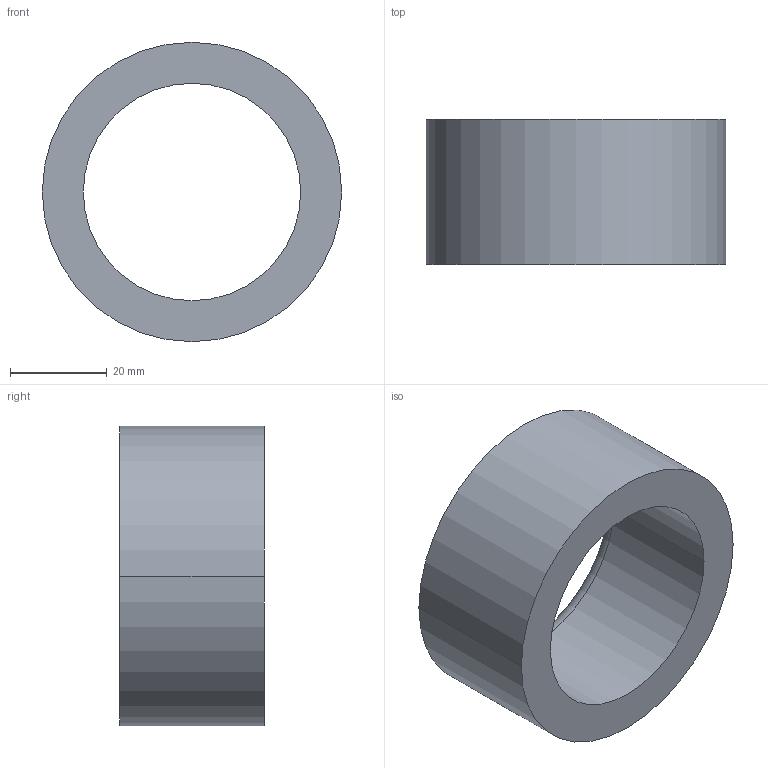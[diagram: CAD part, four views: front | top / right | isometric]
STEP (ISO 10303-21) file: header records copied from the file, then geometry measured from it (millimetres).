
FILE_DESCRIPTION (( 'STEP AP203' ), '1' );
FILE_NAME ('30800.WPP62L45.0.step', '2019-01-23T22:57:25', ( '' ), ( '' ), 'SwSTEP 2.0', 'SolidWorks 2017', '' );
FILE_SCHEMA (( 'CONFIG_CONTROL_DESIGN' ));
Length unit declared in the file: millimetre
Products named in the file (1): 30800.WPP62L45.0
Bounding box: 62 x 30 x 62 mm (x, y, z)
Volume: 42474.6 mm3; surface area: 12734.9 mm2
Topology: 1 solids, 1 shells, 8 faces, 16 edges, 10 vertices
Faces by surface type: cylinder 4, torus 2, plane 2
Entity records: 297 total; most frequent: DIRECTION 46, CARTESIAN_POINT 35, ORIENTED_EDGE 32, AXIS2_PLACEMENT_3D 21, EDGE_CURVE 16, CIRCLE 12, EDGE_LOOP 10, VERTEX_POINT 10
